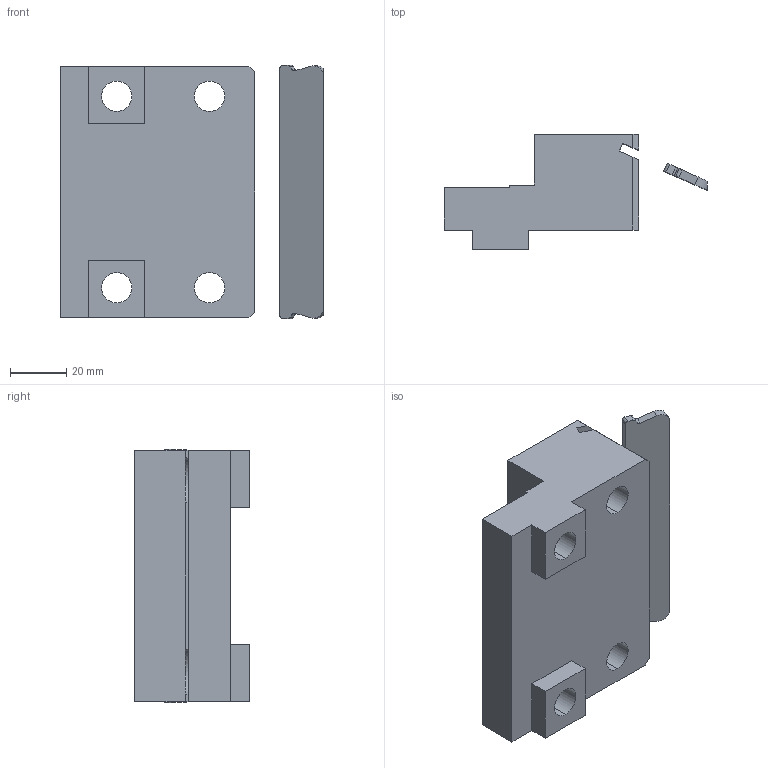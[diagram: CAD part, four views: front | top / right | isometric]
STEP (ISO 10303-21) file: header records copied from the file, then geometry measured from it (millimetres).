
FILE_DESCRIPTION (( 'STEP AP203' ), '1' );
FILE_NAME ('6921674006740_Niederzugbacke_NC90_Fix.STEP', '2009-03-12T08:46:31', ( 'Markus Römer' ), ( '' ), 'SwSTEP 2.0', 'SolidWorks 2008', '' );
FILE_SCHEMA (( 'CONFIG_CONTROL_DESIGN' ));
Length unit declared in the file: millimetre
Products named in the file (3): 6921884103000_Kundenmodell; 6921674006740_Niederzugbacke_NC90_Fix; NiederzugNC90Fix_Serie_Kundenmodell
Assembly tree (2 placements, depth 2):
  6921674006740_Niederzugbacke_NC90_Fix
    6921884103000_Kundenmodell
    NiederzugNC90Fix_Serie_Kundenmodell
Bounding box: 93.5 x 40.8 x 90 mm (x, y, z)
Volume: 147623 mm3; surface area: 31591 mm2
Topology: 2 solids, 2 shells, 66 faces, 180 edges, 120 vertices
Faces by surface type: plane 42, cylinder 24
Entity records: 2417 total; most frequent: CARTESIAN_POINT 377, DIRECTION 372, ORIENTED_EDGE 360, EDGE_CURVE 180, LINE 126, VECTOR 126, AXIS2_PLACEMENT_3D 123, VERTEX_POINT 120
